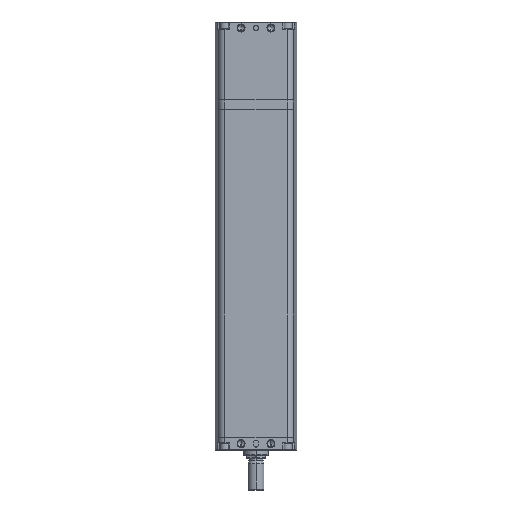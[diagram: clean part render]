
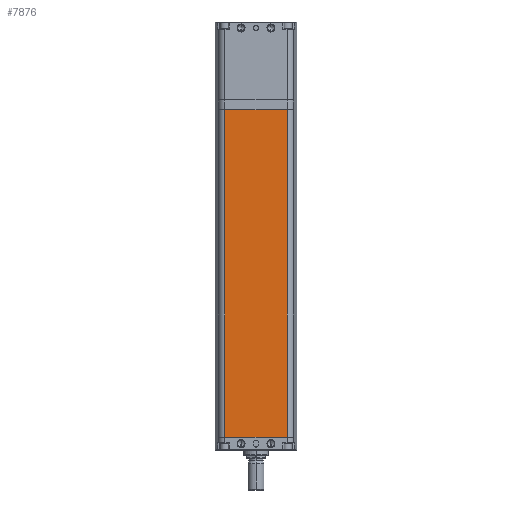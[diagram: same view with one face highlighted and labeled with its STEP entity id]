
A CAD part, front view. The second image highlights one B-rep face of the part: STEP entity #7876.
In plain terms, the highlighted planar face has unit normal (0, -1, 0).
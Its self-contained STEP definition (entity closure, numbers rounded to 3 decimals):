
#398 = VECTOR ( 'NONE', #6161, 1000. ) ;
#699 = EDGE_LOOP ( 'NONE', ( #17820, #8723, #18186, #23562 ) ) ;
#906 = CARTESIAN_POINT ( 'NONE',  ( -41., -41., -73. ) ) ;
#1269 = AXIS2_PLACEMENT_3D ( 'NONE', #22346, #5604, #19147 ) ;
#1338 = CARTESIAN_POINT ( 'NONE',  ( 31.138, -41., -401. ) ) ;
#1962 = VERTEX_POINT ( 'NONE', #23931 ) ;
#3700 = EDGE_CURVE ( 'NONE', #5486, #15925, #22543, .T. ) ;
#4432 = CARTESIAN_POINT ( 'NONE',  ( -41., -41., -401. ) ) ;
#5069 = CARTESIAN_POINT ( 'NONE',  ( -31.138, -41., -1073. ) ) ;
#5486 = VERTEX_POINT ( 'NONE', #10313 ) ;
#5604 = DIRECTION ( 'NONE',  ( 0., -1., 0. ) ) ;
#6161 = DIRECTION ( 'NONE',  ( 1., 0., 0. ) ) ;
#6219 = CARTESIAN_POINT ( 'NONE',  ( -31.138, -41., -73. ) ) ;
#7159 = DIRECTION ( 'NONE',  ( 0., 0., -1. ) ) ;
#7623 = EDGE_CURVE ( 'NONE', #15925, #1962, #10491, .T. ) ;
#7876 = ADVANCED_FACE ( 'NONE', ( #18546 ), #14878, .T. ) ;
#8723 = ORIENTED_EDGE ( 'NONE', *, *, #3700, .T. ) ;
#10019 = VERTEX_POINT ( 'NONE', #6219 ) ;
#10252 = VECTOR ( 'NONE', #10733, 1000. ) ;
#10313 = CARTESIAN_POINT ( 'NONE',  ( -31.138, -41., -401. ) ) ;
#10491 = LINE ( 'NONE', #16224, #10252 ) ;
#10733 = DIRECTION ( 'NONE',  ( 0., 0., 1. ) ) ;
#11810 = EDGE_CURVE ( 'NONE', #10019, #5486, #14348, .T. ) ;
#11956 = EDGE_CURVE ( 'NONE', #10019, #1962, #13483, .T. ) ;
#13483 = LINE ( 'NONE', #906, #15460 ) ;
#14348 = LINE ( 'NONE', #5069, #16626 ) ;
#14878 = PLANE ( 'NONE',  #1269 ) ;
#15460 = VECTOR ( 'NONE', #19112, 1000. ) ;
#15925 = VERTEX_POINT ( 'NONE', #1338 ) ;
#16224 = CARTESIAN_POINT ( 'NONE',  ( 31.138, -41., -1073. ) ) ;
#16626 = VECTOR ( 'NONE', #7159, 1000. ) ;
#17820 = ORIENTED_EDGE ( 'NONE', *, *, #11810, .T. ) ;
#18186 = ORIENTED_EDGE ( 'NONE', *, *, #7623, .T. ) ;
#18546 = FACE_OUTER_BOUND ( 'NONE', #699, .T. ) ;
#19112 = DIRECTION ( 'NONE',  ( 1., 0., 0. ) ) ;
#19147 = DIRECTION ( 'NONE',  ( 0., 0., -1. ) ) ;
#22346 = CARTESIAN_POINT ( 'NONE',  ( -41., -41., -1073. ) ) ;
#22543 = LINE ( 'NONE', #4432, #398 ) ;
#23562 = ORIENTED_EDGE ( 'NONE', *, *, #11956, .F. ) ;
#23931 = CARTESIAN_POINT ( 'NONE',  ( 31.138, -41., -73. ) ) ;
